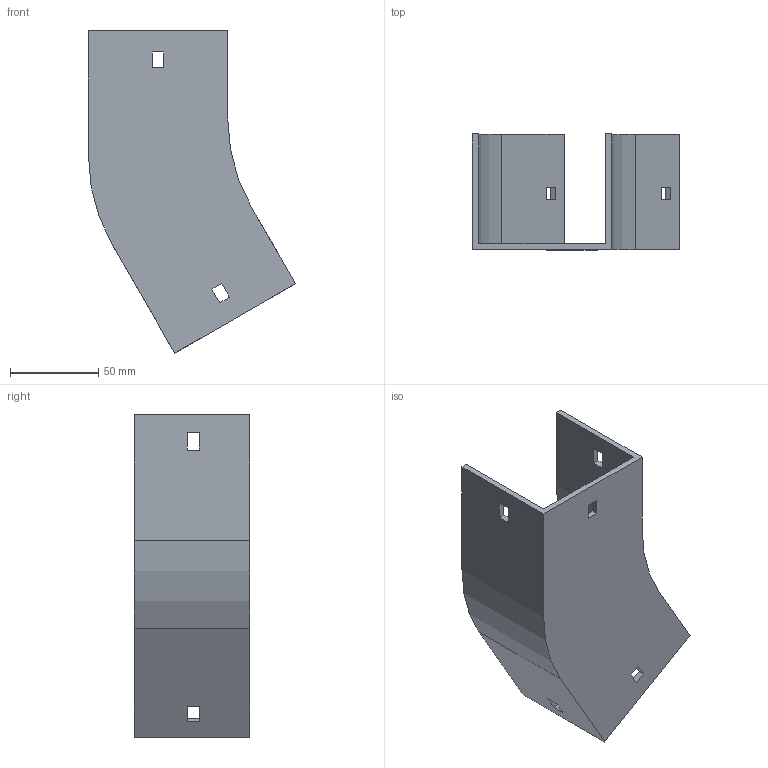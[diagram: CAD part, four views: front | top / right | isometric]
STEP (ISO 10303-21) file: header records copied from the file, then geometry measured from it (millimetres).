
FILE_DESCRIPTION (( 'STEP AP214' ), '1' );
FILE_NAME ('12B1H075.step', '2025-02-21T09:34:51', ( '' ), ( '' ), 'SwSTEP 2.0', 'SolidWorks 2023', '' );
FILE_SCHEMA (( 'AUTOMOTIVE_DESIGN' ));
Length unit declared in the file: millimetre
Products named in the file (1): 12B1H075
Bounding box: 117.4 x 65.5 x 182.8 mm (x, y, z)
Volume: 122242.1 mm3; surface area: 73181.3 mm2
Topology: 1 solids, 1 shells, 42 faces, 120 edges, 80 vertices
Faces by surface type: plane 38, cylinder 4
Entity records: 1399 total; most frequent: CARTESIAN_POINT 243, ORIENTED_EDGE 240, DIRECTION 214, EDGE_CURVE 120, LINE 112, VECTOR 112, VERTEX_POINT 80, EDGE_LOOP 54
